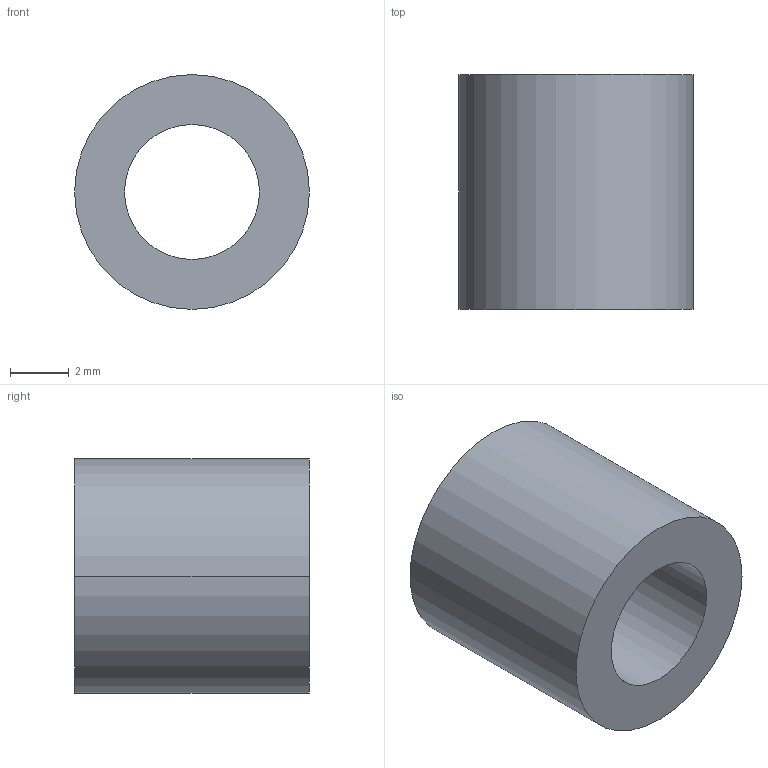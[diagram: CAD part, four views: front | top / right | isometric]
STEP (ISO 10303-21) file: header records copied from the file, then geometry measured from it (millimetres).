
FILE_DESCRIPTION (( 'STEP AP203' ), '1' );
FILE_NAME ('30800.WPP8B4.6.step', '2019-01-23T22:21:22', ( '' ), ( '' ), 'SwSTEP 2.0', 'SolidWorks 2017', '' );
FILE_SCHEMA (( 'CONFIG_CONTROL_DESIGN' ));
Length unit declared in the file: millimetre
Products named in the file (1): 30800.WPP8B4.6
Bounding box: 8 x 8 x 8 mm (x, y, z)
Volume: 265.8 mm3; surface area: 378.2 mm2
Topology: 1 solids, 1 shells, 8 faces, 16 edges, 10 vertices
Faces by surface type: cylinder 4, torus 2, plane 2
Entity records: 297 total; most frequent: DIRECTION 46, CARTESIAN_POINT 35, ORIENTED_EDGE 32, AXIS2_PLACEMENT_3D 21, EDGE_CURVE 16, CIRCLE 12, VERTEX_POINT 10, EDGE_LOOP 10
